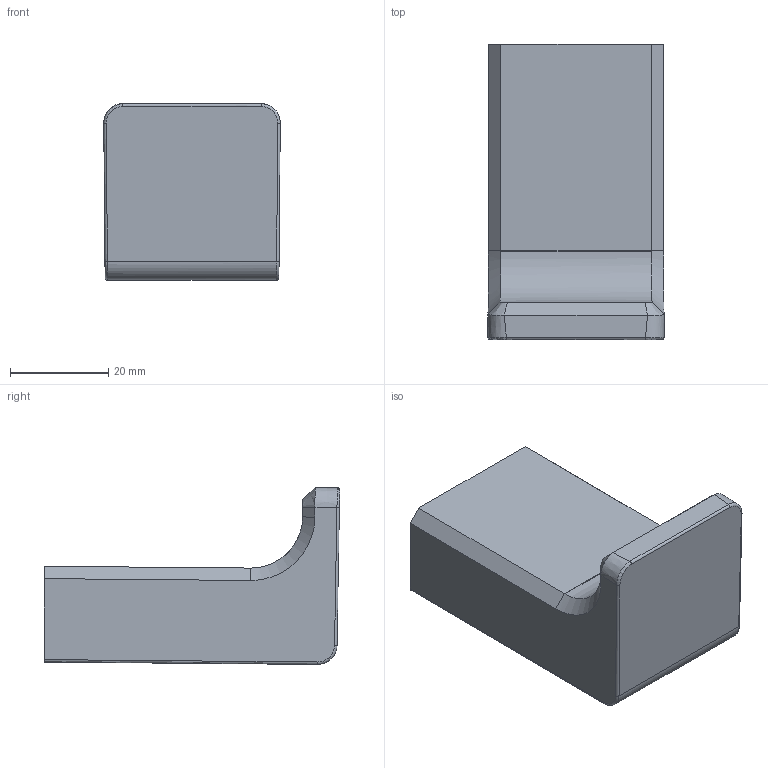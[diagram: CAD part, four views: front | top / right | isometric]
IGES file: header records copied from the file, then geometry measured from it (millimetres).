
Start section:  PTC IGES file: ya87r.igs
Global section: file name: ya87r.igs; native system: Pro/ENGINEER by Parametric Technology Corporation; preprocessor: 2009140; author: damjan; organization: Unknown; date: 20100804.122544; units: millimetre
Bounding box: 35.93 x 60.13 x 36 mm (x, y, z)
Volume: 45921 mm3; surface area: 8881.5 mm2
Topology: 1 solids, 1 shells, 31 faces, 77 edges, 48 vertices
Faces by surface type: bspline 18, revolution 13
